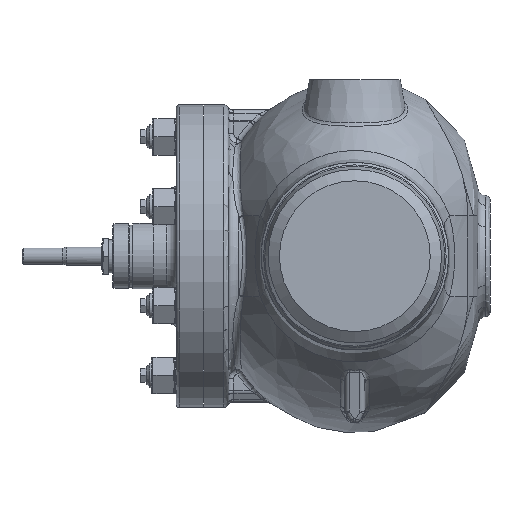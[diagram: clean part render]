
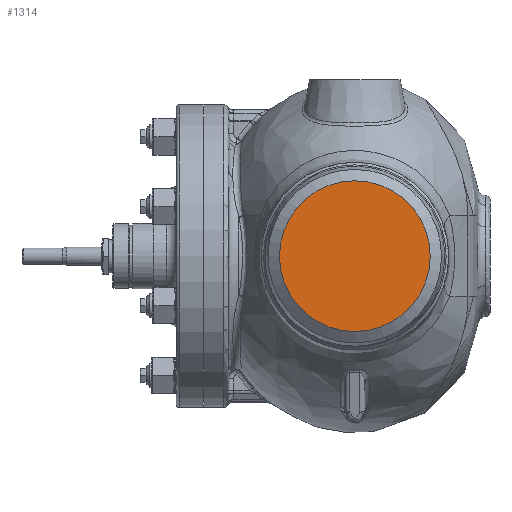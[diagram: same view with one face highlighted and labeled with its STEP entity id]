
A CAD part, left-side view. The second image highlights one B-rep face of the part: STEP entity #1314.
In plain terms, the highlighted planar face has unit normal (-1, 0, 0).
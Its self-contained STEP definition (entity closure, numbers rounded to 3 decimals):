
#1314=ADVANCED_FACE('',(#2083),#1878,.T.);
#1878=PLANE('',#8456);
#2083=FACE_OUTER_BOUND('',#2541,.T.);
#2541=EDGE_LOOP('',(#3919));
#3919=ORIENTED_EDGE('',*,*,#6914,.F.);
#6161=VERTEX_POINT('',#13672);
#6914=EDGE_CURVE('',#6161,#6161,#7964,.T.);
#7964=CIRCLE('',#8455,74.75);
#8455=AXIS2_PLACEMENT_3D('',#13671,#9520,#9521);
#8456=AXIS2_PLACEMENT_3D('',#13673,#9522,#9523);
#9520=DIRECTION('',(1.,0.,0.));
#9521=DIRECTION('',(0.,0.,-1.));
#9522=DIRECTION('',(-1.,0.,0.));
#9523=DIRECTION('',(0.,0.,1.));
#13671=CARTESIAN_POINT('',(-254.,0.,0.));
#13672=CARTESIAN_POINT('',(-254.,0.,-74.75));
#13673=CARTESIAN_POINT('',(-254.,74.75,0.));
